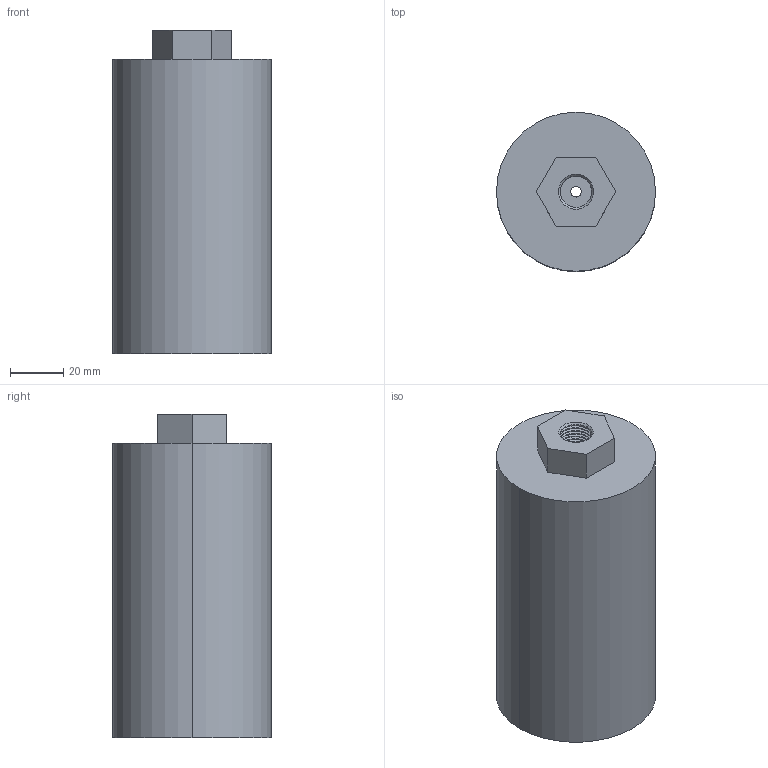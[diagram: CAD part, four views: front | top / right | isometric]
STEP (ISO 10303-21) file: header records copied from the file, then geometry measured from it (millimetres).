
FILE_DESCRIPTION (( 'STEP AP203' ), '1' );
FILE_NAME ('压力炉连接件6-两端螺纹无垫片槽.STEP', '2026-05-25T03:27:57', ( '' ), ( '' ), 'SwSTEP 2.0', 'SolidWorks 2025', '' );
FILE_SCHEMA (( 'CONFIG_CONTROL_DESIGN' ));
Length unit declared in the file: millimetre
Products named in the file (1): 压力炉连接件6-两端螺纹无垫片槽
Bounding box: 60 x 60 x 122 mm (x, y, z)
Volume: 283501.3 mm3; surface area: 36559.6 mm2
Topology: 2 solids, 2 shells, 66 faces, 164 edges, 105 vertices
Faces by surface type: cylinder 39, plane 16, bspline 7, cone 4
Entity records: 4746 total; most frequent: CARTESIAN_POINT 3320, ORIENTED_EDGE 328, DIRECTION 230, EDGE_CURVE 164, VERTEX_POINT 105, AXIS2_PLACEMENT_3D 84, EDGE_LOOP 73, ADVANCED_FACE 66
